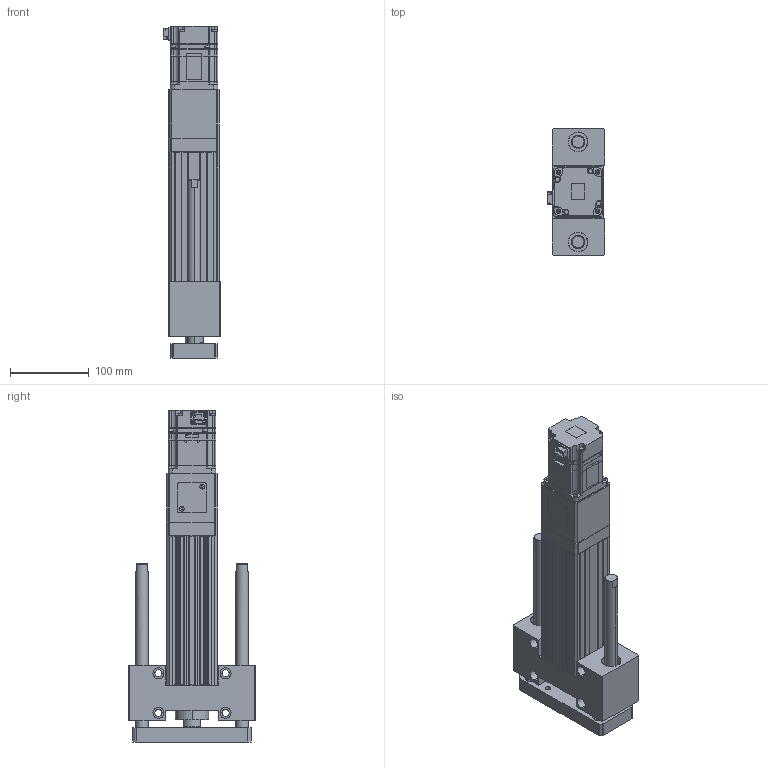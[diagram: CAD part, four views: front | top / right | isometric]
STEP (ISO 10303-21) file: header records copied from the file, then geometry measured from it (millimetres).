
FILE_DESCRIPTION (( 'STEP AP203' ), '1' );
FILE_NAME ('ANS065-HS100-05(10)-W20.STEP', '2019-03-01T04:14:20', ( 'user' ), ( '' ), 'SwSTEP 2.0', 'SolidWorks 2013', '' );
FILE_SCHEMA (( 'CONFIG_CONTROL_DESIGN' ));
Length unit declared in the file: millimetre
Products named in the file (4): ANS065 ROD ST100 G; sgmjv_02a_a21; ANS065-HS100-05(10)-W20; ANS065 HS100 VER2
Assembly tree (3 placements, depth 2):
  ANS065-HS100-05(10)-W20
    ANS065 HS100 VER2
    ANS065 ROD ST100 G
    sgmjv_02a_a21
Bounding box: 72.3 x 160 x 420.6 mm (x, y, z)
Volume: 1640131.4 mm3; surface area: 326300.8 mm2
Topology: 3 solids, 7 shells, 1237 faces, 3245 edges, 2091 vertices
Faces by surface type: plane 697, cylinder 430, cone 110
Entity records: 38305 total; most frequent: CARTESIAN_POINT 6793, DIRECTION 6569, ORIENTED_EDGE 6434, EDGE_CURVE 3217, VECTOR 2207, LINE 2207, AXIS2_PLACEMENT_3D 2181, VERTEX_POINT 2091
